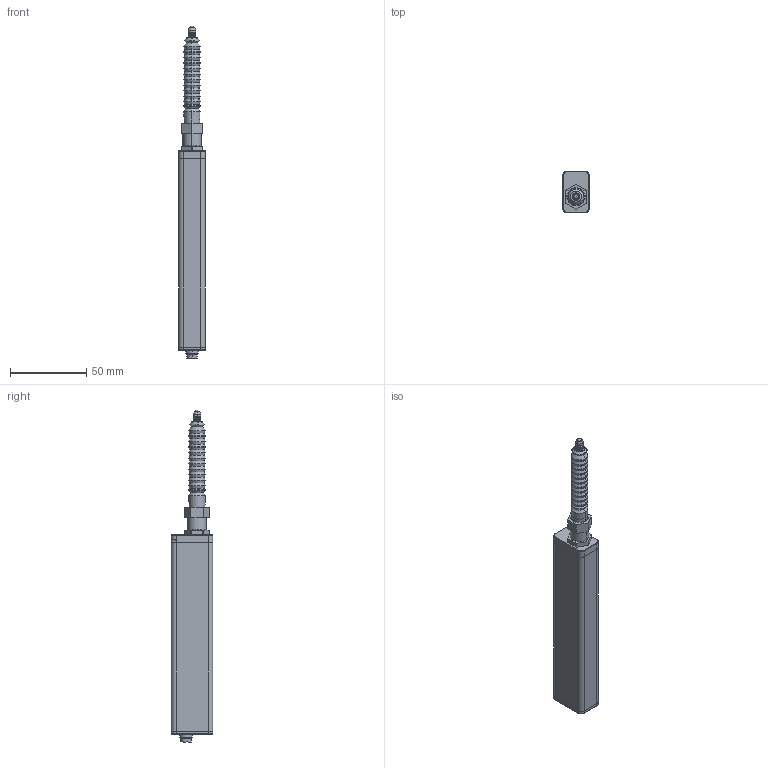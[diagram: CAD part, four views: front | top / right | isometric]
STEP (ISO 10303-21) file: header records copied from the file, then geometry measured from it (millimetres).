
FILE_DESCRIPTION (( 'STEP AP203' ), '1' );
FILE_NAME ('SA-S532_step_01.STEP', '2020-01-24T09:43:46', ( '' ), ( '' ), 'SwSTEP 2.0', 'SolidWorks 2016', '' );
FILE_SCHEMA (( 'CONFIG_CONTROL_DESIGN' ));
Length unit declared in the file: millimetre
Products named in the file (6): 本体32_hp; ゴムベローズ32_hp; SA-S532_step_01; スピンドル32_hp; ナット32_hp; 端子
Assembly tree (5 placements, depth 2):
  SA-S532_step_01
    本体32_hp
    スピンドル32_hp
    端子
    ゴムベローズ32_hp
    ナット32_hp
Bounding box: 17.5 x 27.09 x 217.03 mm (x, y, z)
Volume: 69406.3 mm3; surface area: 19051.7 mm2
Topology: 5 solids, 5 shells, 352 faces, 759 edges, 427 vertices
Faces by surface type: torus 114, cylinder 83, cone 83, plane 69, bspline 2, sphere 1
Entity records: 10131 total; most frequent: DIRECTION 1905, CARTESIAN_POINT 1640, ORIENTED_EDGE 1494, AXIS2_PLACEMENT_3D 817, EDGE_CURVE 747, CIRCLE 459, VERTEX_POINT 426, EDGE_LOOP 379
